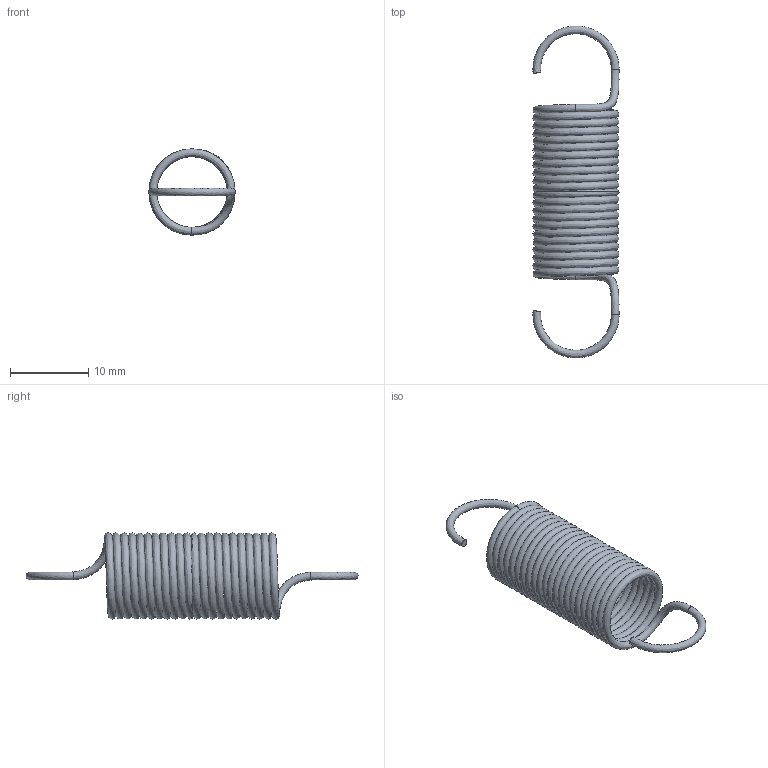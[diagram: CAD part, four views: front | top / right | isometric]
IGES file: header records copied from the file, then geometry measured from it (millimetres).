
Global section: file name: T20940; native system: Autodesk Inventor 2026; preprocessor: unknown; author: J. Iwanek; date: 20261005.101209; units: millimetre
Bounding box: 10.99 x 42.4 x 11 mm (x, y, z)
Volume: 570.5 mm3; surface area: 2283.9 mm2
Topology: 1 solids, 1 shells, 10 faces, 32 edges, 20 vertices
Faces by surface type: bspline 10
